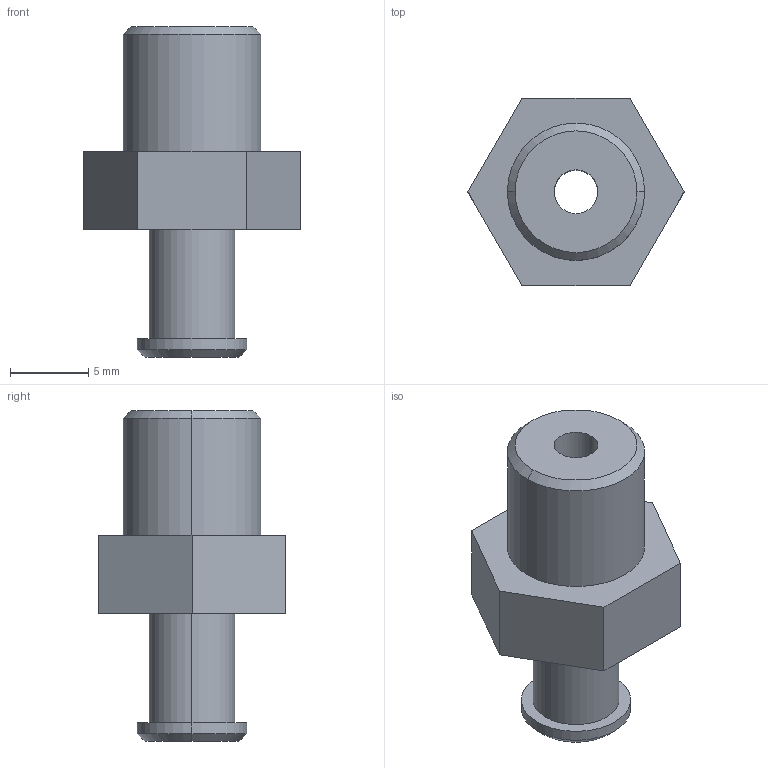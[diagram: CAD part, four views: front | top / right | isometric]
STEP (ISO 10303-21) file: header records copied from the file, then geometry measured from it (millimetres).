
FILE_DESCRIPTION (( 'STEP AP214' ), '1' );
FILE_NAME ('VM40-G18.STEP', '2023-03-07T09:06:34', ( 'Windows User' ), ( 'P R C' ), 'SwSTEP 2.0', 'SolidWorks 2019', '' );
FILE_SCHEMA (( 'AUTOMOTIVE_DESIGN' ));
Length unit declared in the file: millimetre
Products named in the file (1): VM40-G18
Bounding box: 13.86 x 12 x 21.2 mm (x, y, z)
Volume: 1186.1 mm3; surface area: 1014.2 mm2
Topology: 1 solids, 1 shells, 23 faces, 50 edges, 32 vertices
Faces by surface type: plane 11, cylinder 8, cone 4
Entity records: 670 total; most frequent: DIRECTION 118, CARTESIAN_POINT 106, ORIENTED_EDGE 100, EDGE_CURVE 50, AXIS2_PLACEMENT_3D 44, VERTEX_POINT 32, VECTOR 30, LINE 30
